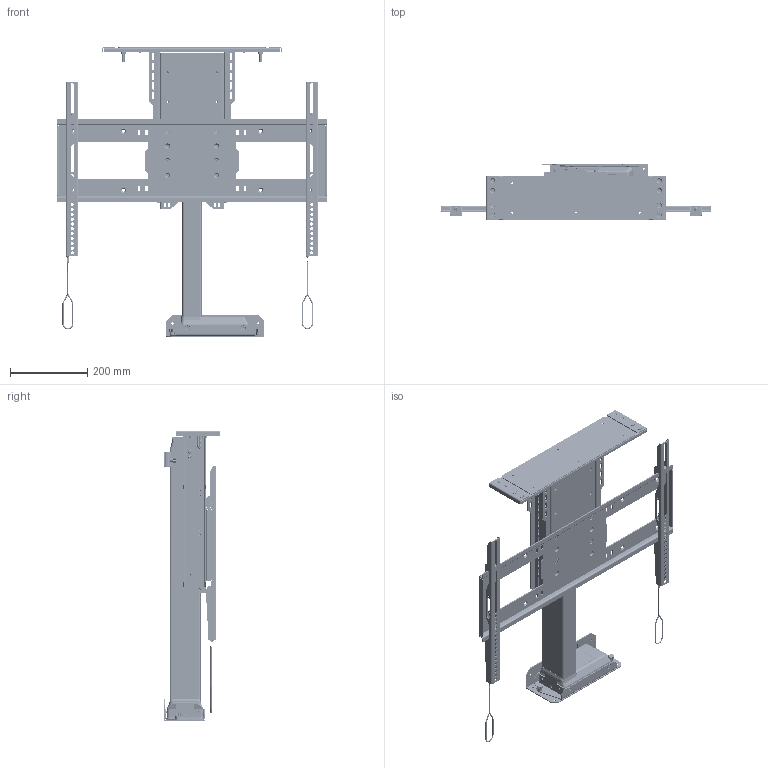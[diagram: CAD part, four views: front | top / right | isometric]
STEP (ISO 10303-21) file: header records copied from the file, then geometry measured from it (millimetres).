
FILE_DESCRIPTION(/* description */ ('STEP AP242','CAx-IF Rec.Pracs.---Representation and Presentation of Product Manufacturing Information (PMI)---4.0---2014-10-13','CAx-IF Rec.Pracs.---3D Tessellated Geometry---0.4---2014-09-14','2;1'),/* implementation_level */ '2;1');
FILE_NAME(/* name */ '63effb5ee841dc2814847ccf',/* time_stamp */ '2023-02-17T22:10:44+00:00',/* author */ (''),/* organization */ (''),/* preprocessor_version */ 'ST-DEVELOPER v18.102',/* originating_system */ ' ',/* authorisation */ ' ');
FILE_SCHEMA (('AP242_MANAGED_MODEL_BASED_3D_ENGINEERING_MIM_LF { 1 0 10303 442 1 1 4 }'));
Products named in the file (56): L-65/s; Hex socket countersunk head screw M6x1 x 16; Hex socket countersunk head screw M6x1 x 12; Socket button head screw M6x1 x 12; WDS8151-215; ULS-NX-108 - ULS SCREEN SUPPORT WELDMENT <1>; PEM CLS-M6-1  ; F-M6-3 M6 PEM NUT; ULS-NX-008 - UL SCREEN SUPPORT SHELL; ULS-NX-009 - ULS SCREEN SUPPORT TOP PLATE <1>; ULS-NX-009 - UL SCREEN SUPPORT TOP PLATE; Lid Plate Assembly W/ Lid Supports <1>; ULS-NX-012 - ULS LID SUPPORT W PEMS <1>; PEM CLS-M6-2  ; UL LID SUPPORT (ULS-NX-012); ULS-NX-012 - ULS LID SUPPORT W PEMS <2>; LID-FL-ULS - ULS Lid Plate Assembly <1>; ULS-NX-006 - Lid Adapter W/ Pin <1>; OLD_ULS-NX-006 - UL LID ADAPTER <1>; ULS-NX-006 - UL LID ADAPTER; FHS-273-24 PEM; FL Sub Asm <1>; 97069A106_Zinc-Plated Steel Spring Lock Washer; Plain washer large grade A M6; Hex socket countersunk head screw M6x1 x 8; ULS-NX-007 - UL LID PLATE EXTENDER; Hex nut grade C M6x1; NEX-LM-032 LID PIN GUIDE; ULS-NX-005 - UL LID PLATE W PEMS <1>; ULS-NX-005 - UL LID PLATE; PEM FHS-M6-15  ; SBP & VMB <1>; PZ Pan head screw M5x0.80 x 25; ULS-NX-017 - UL SCREEN BACK PLATE; Lanyard; ULS-NX-118 - UL VMB WELDMENT <2>; Socket button head cap screw #6-32 x 0.188; VMB Washer; ULS-NX-019 - UL LEVEL ADJUSTMENT PLATE; PEM BSO-632-10  ZI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
Assembly tree (168 placements, depth 6):
  L-65/s
    Hex socket countersunk head screw M6x1 x 16  x4
    Hex socket countersunk head screw M6x1 x 12  x12
    Socket button head screw M6x1 x 12  x8
    WDS8151-215  x4
    ULS-NX-108 - ULS SCREEN SUPPORT WELDMENT <1>
      PEM CLS-M6-1    x32
      F-M6-3 M6 PEM NUT
      ULS-NX-008 - UL SCREEN SUPPORT SHELL
      ULS-NX-009 - ULS SCREEN SUPPORT TOP PLATE <1>
        PEM CLS-M6-1    x4
        ULS-NX-009 - UL SCREEN SUPPORT TOP PLATE
    Lid Plate Assembly W/ Lid Supports <1>
      ULS-NX-012 - ULS LID SUPPORT W PEMS <1>
        PEM CLS-M6-2    x2
        UL LID SUPPORT (ULS-NX-012)
      ULS-NX-012 - ULS LID SUPPORT W PEMS <2>
        PEM CLS-M6-2    x2
        UL LID SUPPORT (ULS-NX-012)
      LID-FL-ULS - ULS Lid Plate Assembly <1>
        ULS-NX-006 - Lid Adapter W/ Pin <1>
          OLD_ULS-NX-006 - UL LID ADAPTER <1>
            ULS-NX-006 - UL LID ADAPTER
            FHS-273-24 PEM  x2
        FL Sub Asm <1>
          97069A106_Zinc-Plated Steel Spring Lock Washer  x4
          Plain washer large grade A M6  x4
          Hex socket countersunk head screw M6x1 x 8  x4
          ULS-NX-007 - UL LID PLATE EXTENDER  x2
          Hex nut grade C M6x1  x4
          NEX-LM-032 LID PIN GUIDE  x2
          ULS-NX-005 - UL LID PLATE W PEMS <1>
            PEM CLS-M6-2    x8
            ULS-NX-005 - UL LID PLATE
            PEM FHS-M6-15    x4
    SBP & VMB <1>
      PZ Pan head screw M5x0.80 x 25  x2
      ULS-NX-017 - UL SCREEN BACK PLATE
      Lanyard  x2
      ULS-NX-118 - UL VMB WELDMENT <2>
        Socket button head cap screw #6-32 x 0.188  x2
        VMB Washer  x4
        ULS-NX-019 - UL LEVEL ADJUSTMENT PLATE
        PEM BSO-632-10  ZI  x2
        90107A012  x2
        ULS-NX-018 - UL VERICAL MOUNTING BAR
        ULS-NX-020 - UL SCREEN LOCK
      ULS-NX-118 - UL VMB WELDMENT <1>
        VMB Washer  x4
        Socket button head cap screw #6-32 x 0.188  x2
        PEM BSO-632-10  ZI  x2
        ULS-NX-020 - UL SCREEN LOCK
        ULS-NX-018 - UL VERICAL MOUNTING BAR
        90107A012  x2
        ULS-NX-019 - UL LEVEL ADJUSTMENT PLATE
    L-65 Lower Sub Assembly <1>
      ULS-NX-002 - ULS QUICK RELEASE LC MOUNT
      ULS-NX-004 - ULS COLUMN CLAMP
      ULS-NX-001 - ULS QUICK RELEASE BASE MOUNT W/ PEMS <1>
        PEM FHS-M6-12    x2
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Bounding box: 698.5 x 146.38 x 750.68 mm (x, y, z)
Volume: 8751827.6 mm3; surface area: 1828094 mm2
Topology: 151 solids, 151 shells, 10707 faces, 28611 edges, 18547 vertices
Faces by surface type: plane 7417, cylinder 1876, cone 707, bspline 463, torus 210, sphere 34
Full cylindrical faces by diameter (mm): 2.032 x14, 2.642 x4, 3.175 x10, 3.505 x4, 4.6 x2, 4.917 x53, 5 x14, 5.026 x4, 5.08 x4, 5.277 x8, 5.3 x6, 5.385 x12, 5.41 x8, 5.6 x4, 5.613 x6, 5.944 x4, 5.994 x2, 6 x62, 6.35 x16, 6.4 x4, 6.528 x4, 6.6 x2, 6.604 x4, 6.655 x4, 6.934 x2, 6.976 x1, 7.112 x2, 7.239 x2, 7.62 x2, 7.925 x2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
Entity records: 97929 total; most frequent: CARTESIAN_POINT 19087, DIRECTION 15426, ORIENTED_EDGE 14984, EDGE_CURVE 7492, AXIS2_PLACEMENT_3D 5293, VERTEX_POINT 4979, LINE 4840, VECTOR 4840
